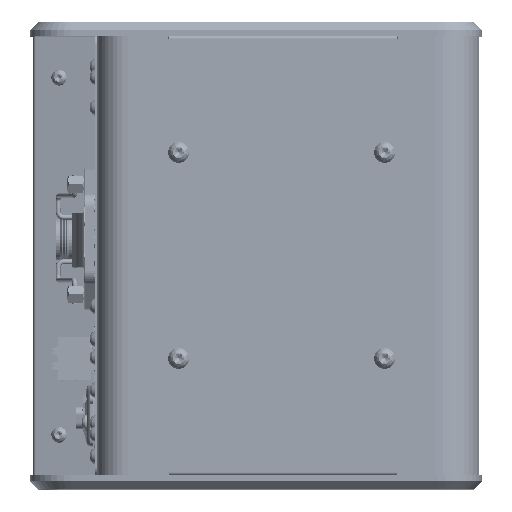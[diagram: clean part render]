
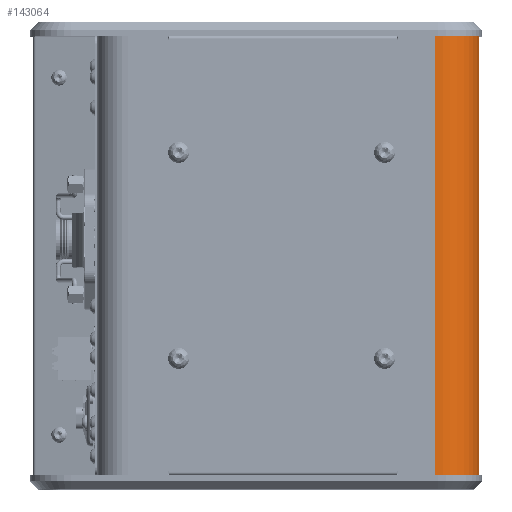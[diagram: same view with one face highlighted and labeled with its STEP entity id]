
A CAD part, top view. The second image highlights one B-rep face of the part: STEP entity #143064.
In plain terms, the highlighted cylindrical face has radius 16 mm (diameter 32 mm), a partial arc.
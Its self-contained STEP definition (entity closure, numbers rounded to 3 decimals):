
#6034 = AXIS2_PLACEMENT_3D ( 'NONE', #19672, #132234, #226036 ) ;
#13414 = VERTEX_POINT ( 'NONE', #52582 ) ;
#19672 = CARTESIAN_POINT ( 'NONE',  ( -68.006, -154.757, -77.558 ) ) ;
#27446 = CARTESIAN_POINT ( 'NONE',  ( -52.006, 5.243, -77.558 ) ) ;
#33691 = VERTEX_POINT ( 'NONE', #98954 ) ;
#35353 = EDGE_CURVE ( 'NONE', #239503, #13414, #142053, .T. ) ;
#52582 = CARTESIAN_POINT ( 'NONE',  ( -68.006, -154.757, -61.558 ) ) ;
#54429 = VECTOR ( 'NONE', #221927, 1000. ) ;
#60729 = CIRCLE ( 'NONE', #212747, 16. ) ;
#62505 = FACE_OUTER_BOUND ( 'NONE', #204518, .T. ) ;
#62575 = EDGE_CURVE ( 'NONE', #33691, #13414, #215428, .T. ) ;
#74849 = EDGE_CURVE ( 'NONE', #239503, #128079, #60729, .T. ) ;
#81566 = CARTESIAN_POINT ( 'NONE',  ( -52.006, 5.243, -77.558 ) ) ;
#98954 = CARTESIAN_POINT ( 'NONE',  ( -52.006, -154.757, -77.558 ) ) ;
#102670 = CYLINDRICAL_SURFACE ( 'NONE', #238310, 16. ) ;
#107860 = ORIENTED_EDGE ( 'NONE', *, *, #35353, .T. ) ;
#112328 = ORIENTED_EDGE ( 'NONE', *, *, #74849, .F. ) ;
#112672 = CARTESIAN_POINT ( 'NONE',  ( -68.006, -154.757, -61.558 ) ) ;
#115375 = DIRECTION ( 'NONE',  ( 0., -1., 0. ) ) ;
#128079 = VERTEX_POINT ( 'NONE', #27446 ) ;
#132234 = DIRECTION ( 'NONE',  ( 0., -1., 0. ) ) ;
#138258 = CARTESIAN_POINT ( 'NONE',  ( -68.006, 5.243, -61.558 ) ) ;
#141061 = ORIENTED_EDGE ( 'NONE', *, *, #241858, .T. ) ;
#142053 = LINE ( 'NONE', #112672, #54429 ) ;
#143064 = ADVANCED_FACE ( 'NONE', ( #62505 ), #102670, .T. ) ;
#153660 = CARTESIAN_POINT ( 'NONE',  ( -68.006, -154.757, -77.558 ) ) ;
#155882 = DIRECTION ( 'NONE',  ( 0., 0., 1. ) ) ;
#157391 = DIRECTION ( 'NONE',  ( 0., 1., 0. ) ) ;
#175871 = VECTOR ( 'NONE', #157391, 1000. ) ;
#191794 = DIRECTION ( 'NONE',  ( 0., 1., 0. ) ) ;
#204518 = EDGE_LOOP ( 'NONE', ( #107860, #226080, #141061, #112328 ) ) ;
#207490 = DIRECTION ( 'NONE',  ( 1., 0., 0. ) ) ;
#209788 = CARTESIAN_POINT ( 'NONE',  ( -68.006, 5.243, -77.558 ) ) ;
#212747 = AXIS2_PLACEMENT_3D ( 'NONE', #209788, #191794, #155882 ) ;
#215428 = CIRCLE ( 'NONE', #6034, 16. ) ;
#221927 = DIRECTION ( 'NONE',  ( 0., -1., 0. ) ) ;
#226036 = DIRECTION ( 'NONE',  ( 0., 0., 1. ) ) ;
#226080 = ORIENTED_EDGE ( 'NONE', *, *, #62575, .F. ) ;
#238310 = AXIS2_PLACEMENT_3D ( 'NONE', #153660, #115375, #207490 ) ;
#239503 = VERTEX_POINT ( 'NONE', #138258 ) ;
#240282 = LINE ( 'NONE', #81566, #175871 ) ;
#241858 = EDGE_CURVE ( 'NONE', #33691, #128079, #240282, .T. ) ;
